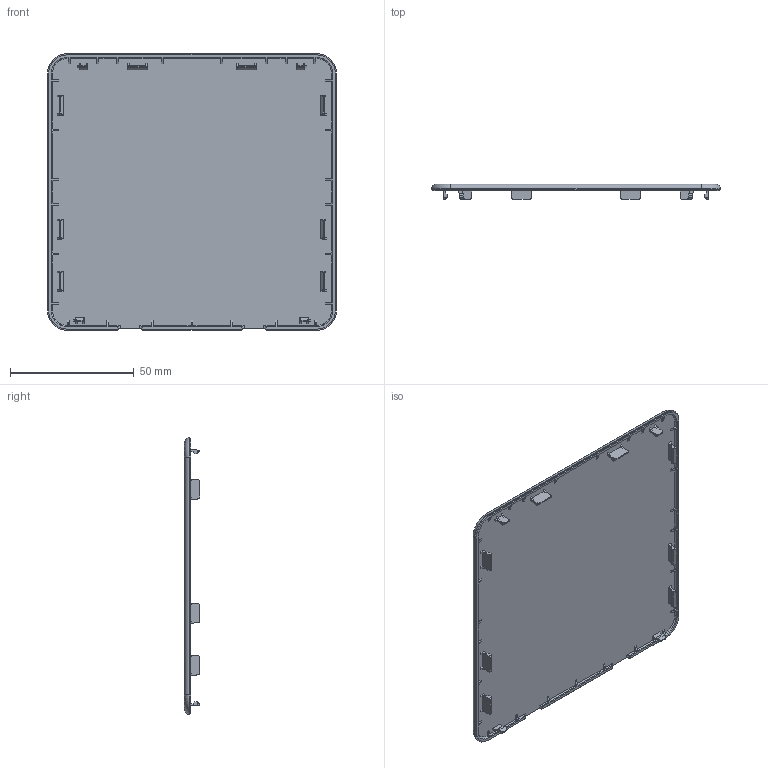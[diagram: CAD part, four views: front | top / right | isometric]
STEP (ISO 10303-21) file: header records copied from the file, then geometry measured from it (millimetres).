
FILE_DESCRIPTION((''),'2;1');
FILE_NAME('PLS_COVER_COS_NUC_PA','2023-01-30T13:13:52',('jkwu'),(''),'CREO PARAMETRIC BY PTC INC, 2020354','CREO PARAMETRIC BY PTC INC, 2020354','');
FILE_SCHEMA(('CONFIG_CONTROL_DESIGN'));
Length unit declared in the file: millimetre
Products named in the file (1): PLS_COVER_COS_NUC_PA
Bounding box: 116.55 x 6.1 x 111.55 mm (x, y, z)
Volume: 19953.3 mm3; surface area: 27826.2 mm2
Topology: 1 solids, 1 shells, 426 faces, 1208 edges, 796 vertices
Faces by surface type: plane 300, cylinder 67, bspline 39, cone 12, torus 8
Entity records: 14700 total; most frequent: CARTESIAN_POINT 4057, ORIENTED_EDGE 2416, DIRECTION 1846, EDGE_CURVE 1208, VECTOR 960, LINE 960, VERTEX_POINT 796, AXIS2_PLACEMENT_3D 443
